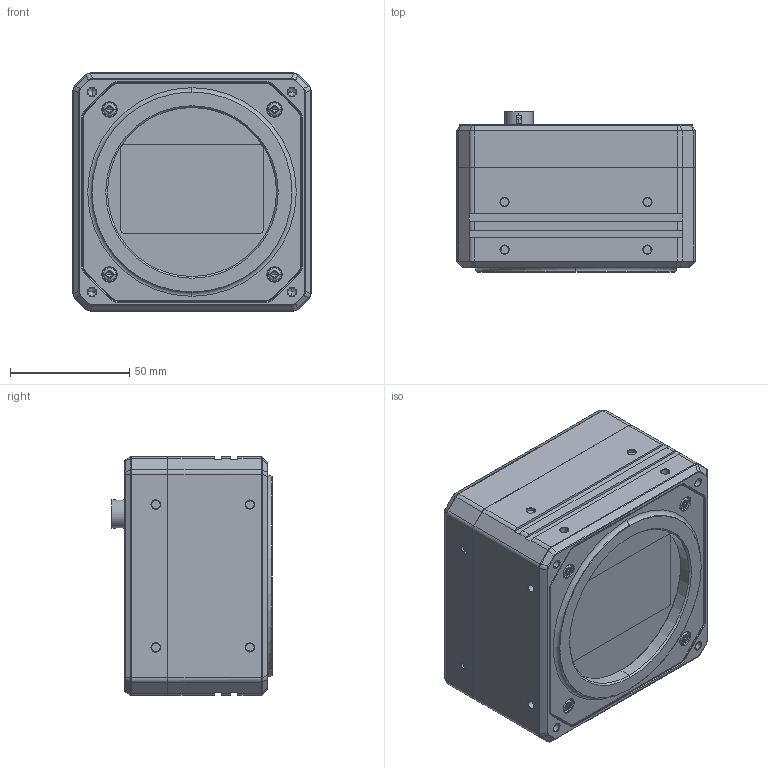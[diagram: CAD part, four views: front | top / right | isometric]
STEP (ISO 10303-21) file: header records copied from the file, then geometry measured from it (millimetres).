
FILE_DESCRIPTION((''),'2;1');
FILE_NAME('ASM0001_ASM','2024-02-28T10:27:47',('gengdawei'),(''),'CREO PARAMETRIC BY PTC INC, 2020044','CREO PARAMETRIC BY PTC INC, 2020044','');
FILE_SCHEMA(('CONFIG_CONTROL_DESIGN'));
Products named in the file (7): PRT0001; 101303016_5_1; 101303016_5_2; 101303016_5_ASM; HR10A-10R-12PB_2; HKT-FPC_ASM_2_ASM; ASM0001_ASM
Assembly tree (6 placements, depth 3):
  ASM0001_ASM
    PRT0001
    101303016_5_ASM
      101303016_5_1
      101303016_5_2
    HKT-FPC_ASM_2_ASM
      HR10A-10R-12PB_2
Bounding box: 100 x 67.21 x 100 mm (x, y, z)
Volume: 547585 mm3; surface area: 77618.5 mm2
Topology: 2 solids, 17 shells, 3611 faces, 9842 edges, 6273 vertices
Faces by surface type: plane 2431, cylinder 718, cone 166, extrusion 145, bspline 89, torus 50, sphere 12
Entity records: 121334 total; most frequent: CARTESIAN_POINT 30800, ORIENTED_EDGE 19571, DIRECTION 17411, EDGE_CURVE 9813, VECTOR 7457, LINE 7312, VERTEX_POINT 6273, AXIS2_PLACEMENT_3D 4977
